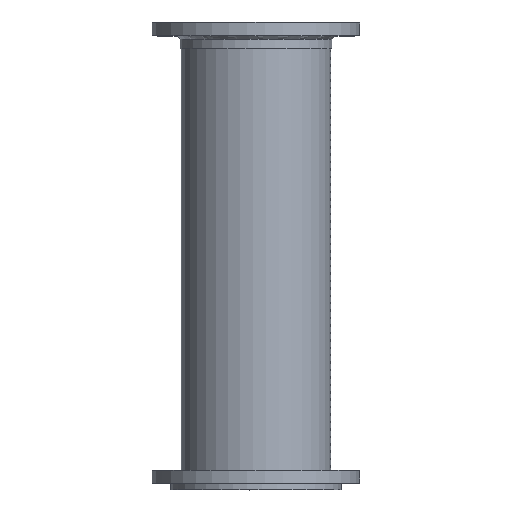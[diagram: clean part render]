
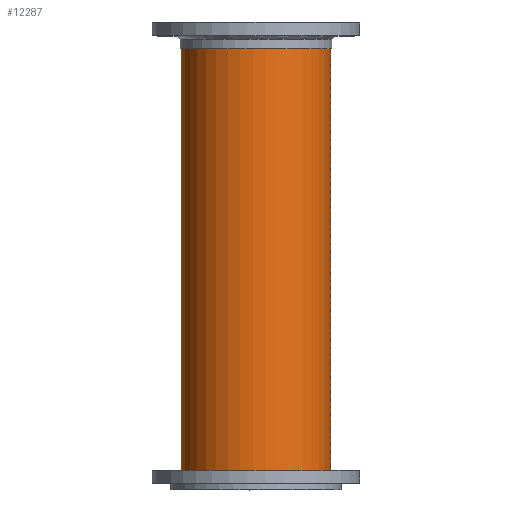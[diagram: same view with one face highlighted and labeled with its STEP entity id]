
A CAD part, top view. The second image highlights one B-rep face of the part: STEP entity #12287.
In plain terms, the highlighted cylindrical face has radius 146.05 mm (diameter 292.1 mm), a full revolution.
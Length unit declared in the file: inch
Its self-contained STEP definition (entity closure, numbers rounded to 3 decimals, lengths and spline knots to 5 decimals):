
#12260=CARTESIAN_POINT('',(0.0,0.0,0.0));
#12261=DIRECTION('',(0.0,0.0,1.0));
#12262=DIRECTION('',(-1.0,0.0,0.0));
#12263=AXIS2_PLACEMENT_3D('',#12260,#12261,#12262);
#12264=CYLINDRICAL_SURFACE('',#12263,5.75);
#12265=CARTESIAN_POINT('',(5.75,0.,34.4375));
#12266=VERTEX_POINT('',#12265);
#12267=CARTESIAN_POINT('',(0.0,0.0,34.4375));
#12268=DIRECTION('',(0.0,0.0,-1.0));
#12269=DIRECTION('',(-1.0,0.0,0.0));
#12270=AXIS2_PLACEMENT_3D('',#12267,#12268,#12269);
#12271=CIRCLE('',#12270,5.75);
#12272=EDGE_CURVE('',#12266,#12266,#12271,.T.);
#12273=ORIENTED_EDGE('',*,*,#12272,.T.);
#12274=EDGE_LOOP('',(#12273));
#12275=FACE_OUTER_BOUND('',#12274,.T.);
#12276=CARTESIAN_POINT('',(5.75,0.,0.0));
#12277=VERTEX_POINT('',#12276);
#12278=CARTESIAN_POINT('',(0.0,0.0,0.0));
#12279=DIRECTION('',(0.0,0.0,-1.0));
#12280=DIRECTION('',(-1.0,0.0,0.0));
#12281=AXIS2_PLACEMENT_3D('',#12278,#12279,#12280);
#12282=CIRCLE('',#12281,5.75);
#12283=EDGE_CURVE('',#12277,#12277,#12282,.T.);
#12284=ORIENTED_EDGE('',*,*,#12283,.F.);
#12285=EDGE_LOOP('',(#12284));
#12286=FACE_BOUND('',#12285,.T.);
#12287=ADVANCED_FACE('',(#12275,#12286),#12264,.T.);
